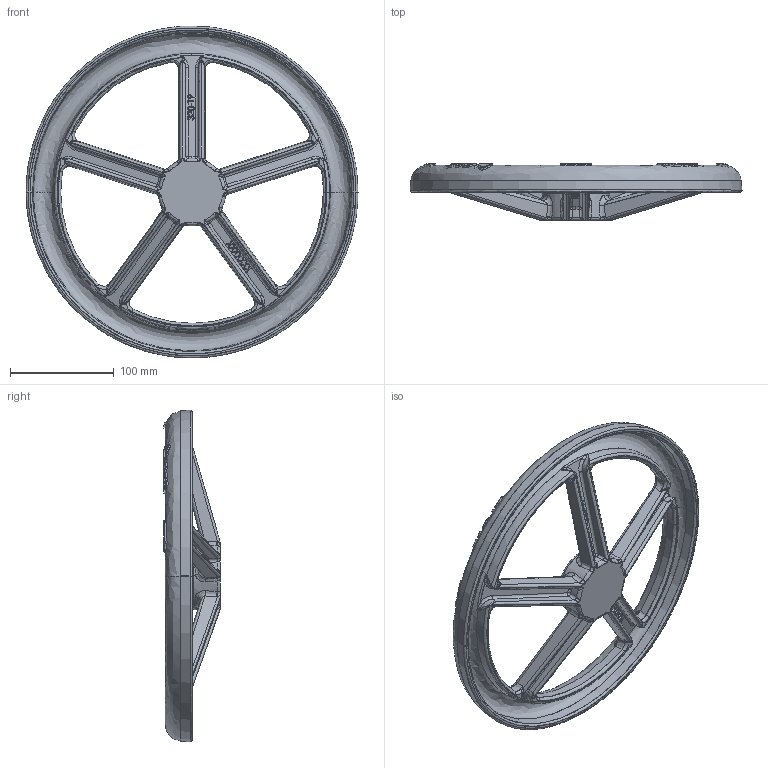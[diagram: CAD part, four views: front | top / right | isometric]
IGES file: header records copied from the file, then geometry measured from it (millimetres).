
Start section: SolidWorks IGES file using analytic representation for surfaces
Global section: file name: C:\work-andy\PCF360\S08\0815002000.IGS; native system: SolidWorks 2008; preprocessor: SolidWorks 2008; author: ch_anji; date: 091127.144327; units: millimetre
Bounding box: 319.62 x 54.5 x 319.62 mm (x, y, z)
Surface area: 172415.8 mm2 (no closed solid volume)
Topology: 0 solids, 0 shells, 853 faces, 11031 edges, 10970 vertices
Faces by surface type: bspline 734, revolution 119
